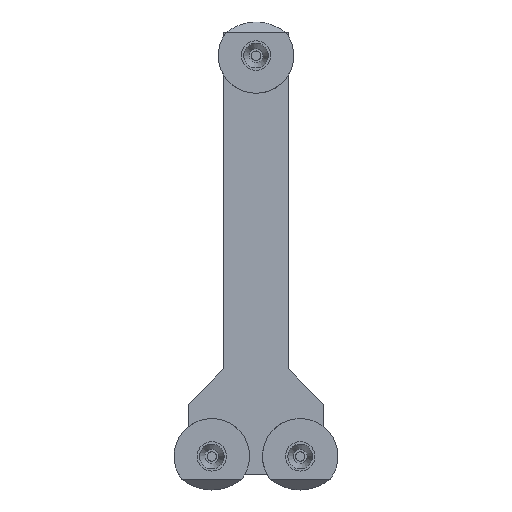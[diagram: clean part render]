
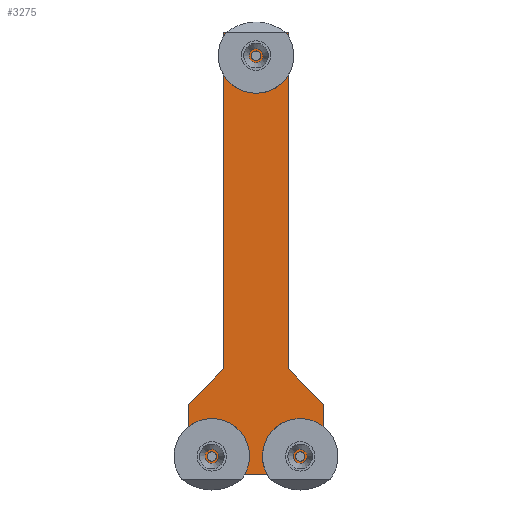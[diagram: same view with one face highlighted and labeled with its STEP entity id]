
A CAD part, top view. The second image highlights one B-rep face of the part: STEP entity #3275.
In plain terms, the highlighted planar face has unit normal (0, 0, 1).
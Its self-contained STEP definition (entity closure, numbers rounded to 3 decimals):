
#43=FACE_BOUND('',#417,.T.);
#44=FACE_BOUND('',#418,.T.);
#45=FACE_BOUND('',#419,.T.);
#55=PLANE('',#3525);
#231=FACE_OUTER_BOUND('',#416,.T.);
#416=EDGE_LOOP('',(#2334,#2335,#2336,#2337,#2338,#2339,#2340,#2341));
#417=EDGE_LOOP('',(#2342,#2343));
#418=EDGE_LOOP('',(#2344,#2345));
#419=EDGE_LOOP('',(#2346,#2347));
#615=LINE('',#4676,#1057);
#619=LINE('',#4684,#1061);
#622=LINE('',#4690,#1064);
#623=LINE('',#4692,#1065);
#624=LINE('',#4694,#1066);
#625=LINE('',#4696,#1067);
#626=LINE('',#4698,#1068);
#627=LINE('',#4699,#1069);
#1057=VECTOR('',#3778,10.);
#1061=VECTOR('',#3784,10.);
#1064=VECTOR('',#3789,10.);
#1065=VECTOR('',#3790,10.);
#1066=VECTOR('',#3791,10.);
#1067=VECTOR('',#3792,10.);
#1068=VECTOR('',#3793,10.);
#1069=VECTOR('',#3794,10.);
#1490=CIRCLE('',#3509,0.8);
#1491=CIRCLE('',#3510,0.8);
#1494=CIRCLE('',#3514,0.8);
#1495=CIRCLE('',#3515,0.8);
#1498=CIRCLE('',#3519,0.8);
#1499=CIRCLE('',#3520,0.8);
#1523=VERTEX_POINT('',#4632);
#1524=VERTEX_POINT('',#4633);
#1529=VERTEX_POINT('',#4646);
#1530=VERTEX_POINT('',#4647);
#1535=VERTEX_POINT('',#4660);
#1536=VERTEX_POINT('',#4661);
#1541=VERTEX_POINT('',#4674);
#1542=VERTEX_POINT('',#4675);
#1545=VERTEX_POINT('',#4683);
#1547=VERTEX_POINT('',#4689);
#1548=VERTEX_POINT('',#4691);
#1549=VERTEX_POINT('',#4693);
#1550=VERTEX_POINT('',#4695);
#1551=VERTEX_POINT('',#4697);
#1823=EDGE_CURVE('',#1523,#1524,#1490,.T.);
#1824=EDGE_CURVE('',#1524,#1523,#1491,.T.);
#1830=EDGE_CURVE('',#1529,#1530,#1494,.T.);
#1831=EDGE_CURVE('',#1530,#1529,#1495,.T.);
#1837=EDGE_CURVE('',#1535,#1536,#1498,.T.);
#1838=EDGE_CURVE('',#1536,#1535,#1499,.T.);
#1844=EDGE_CURVE('',#1541,#1542,#615,.T.);
#1848=EDGE_CURVE('',#1542,#1545,#619,.T.);
#1851=EDGE_CURVE('',#1541,#1547,#622,.T.);
#1852=EDGE_CURVE('',#1547,#1548,#623,.T.);
#1853=EDGE_CURVE('',#1548,#1549,#624,.T.);
#1854=EDGE_CURVE('',#1550,#1549,#625,.T.);
#1855=EDGE_CURVE('',#1551,#1550,#626,.T.);
#1856=EDGE_CURVE('',#1545,#1551,#627,.T.);
#2334=ORIENTED_EDGE('',*,*,#1844,.F.);
#2335=ORIENTED_EDGE('',*,*,#1851,.T.);
#2336=ORIENTED_EDGE('',*,*,#1852,.T.);
#2337=ORIENTED_EDGE('',*,*,#1853,.T.);
#2338=ORIENTED_EDGE('',*,*,#1854,.F.);
#2339=ORIENTED_EDGE('',*,*,#1855,.F.);
#2340=ORIENTED_EDGE('',*,*,#1856,.F.);
#2341=ORIENTED_EDGE('',*,*,#1848,.F.);
#2342=ORIENTED_EDGE('',*,*,#1823,.T.);
#2343=ORIENTED_EDGE('',*,*,#1824,.T.);
#2344=ORIENTED_EDGE('',*,*,#1830,.T.);
#2345=ORIENTED_EDGE('',*,*,#1831,.T.);
#2346=ORIENTED_EDGE('',*,*,#1837,.T.);
#2347=ORIENTED_EDGE('',*,*,#1838,.T.);
#3275=ADVANCED_FACE('',(#231,#43,#44,#45),#55,.T.);
#3509=AXIS2_PLACEMENT_3D('',#4634,#3739,#3740);
#3510=AXIS2_PLACEMENT_3D('',#4635,#3741,#3742);
#3514=AXIS2_PLACEMENT_3D('',#4648,#3752,#3753);
#3515=AXIS2_PLACEMENT_3D('',#4649,#3754,#3755);
#3519=AXIS2_PLACEMENT_3D('',#4662,#3765,#3766);
#3520=AXIS2_PLACEMENT_3D('',#4663,#3767,#3768);
#3525=AXIS2_PLACEMENT_3D('',#4688,#3787,#3788);
#3739=DIRECTION('center_axis',(0.,0.,
-1.));
#3740=DIRECTION('ref_axis',(1.,0.,0.));
#3741=DIRECTION('center_axis',(0.,0.,
-1.));
#3742=DIRECTION('ref_axis',(1.,0.,0.));
#3752=DIRECTION('center_axis',(0.,0.,
-1.));
#3753=DIRECTION('ref_axis',(1.,0.,0.));
#3754=DIRECTION('center_axis',(0.,0.,
-1.));
#3755=DIRECTION('ref_axis',(1.,0.,0.));
#3765=DIRECTION('center_axis',(0.,0.,
-1.));
#3766=DIRECTION('ref_axis',(1.,0.,0.));
#3767=DIRECTION('center_axis',(0.,0.,
-1.));
#3768=DIRECTION('ref_axis',(1.,0.,0.));
#3778=DIRECTION('',(0.707,-0.707,0.));
#3784=DIRECTION('',(0.,-1.,0.));
#3787=DIRECTION('center_axis',(0.,0.,
1.));
#3788=DIRECTION('ref_axis',(0.,-1.,0.));
#3789=DIRECTION('',(0.,1.,0.));
#3790=DIRECTION('',(-1.,0.,0.));
#3791=DIRECTION('',(0.,-1.,0.));
#3792=DIRECTION('',(0.707,0.707,0.));
#3793=DIRECTION('',(0.,1.,0.));
#3794=DIRECTION('',(-1.,0.,0.));
#4632=CARTESIAN_POINT('',(15.8,-5.,1.4));
#4633=CARTESIAN_POINT('',(14.2,-5.,1.4));
#4634=CARTESIAN_POINT('Origin',(15.,-5.,1.4));
#4635=CARTESIAN_POINT('Origin',(15.,-5.,1.4));
#4646=CARTESIAN_POINT('',(0.8,-5.,1.4));
#4647=CARTESIAN_POINT('',(-0.8,-5.,1.4));
#4648=CARTESIAN_POINT('Origin',(0.,-5.,1.4));
#4649=CARTESIAN_POINT('Origin',(0.,-5.,1.4));
#4660=CARTESIAN_POINT('',(8.3,63.,1.4));
#4661=CARTESIAN_POINT('',(6.7,63.,1.4));
#4662=CARTESIAN_POINT('Origin',(7.5,63.,1.4));
#4663=CARTESIAN_POINT('Origin',(7.5,63.,1.4));
#4674=CARTESIAN_POINT('',(13.,9.852,1.4));
#4675=CARTESIAN_POINT('',(19.,3.852,1.4));
#4676=CARTESIAN_POINT('',(-4.25,27.102,1.4));
#4683=CARTESIAN_POINT('',(19.,-8.,1.4));
#4684=CARTESIAN_POINT('',(19.,0.,1.4));
#4688=CARTESIAN_POINT('Origin',(0.,71.852,
1.4));
#4689=CARTESIAN_POINT('',(13.,66.852,1.4));
#4690=CARTESIAN_POINT('',(13.,56.352,1.4));
#4691=CARTESIAN_POINT('',(2.,66.852,1.4));
#4692=CARTESIAN_POINT('',(3.75,66.852,1.4));
#4693=CARTESIAN_POINT('',(2.,9.852,1.4));
#4694=CARTESIAN_POINT('',(2.,56.352,1.4));
#4695=CARTESIAN_POINT('',(-4.,3.852,1.4));
#4696=CARTESIAN_POINT('',(15.5,23.352,1.4));
#4697=CARTESIAN_POINT('',(-4.,-8.,1.4));
#4698=CARTESIAN_POINT('',(-4.,12.105,1.4));
#4699=CARTESIAN_POINT('',(3.75,-8.,1.4));
